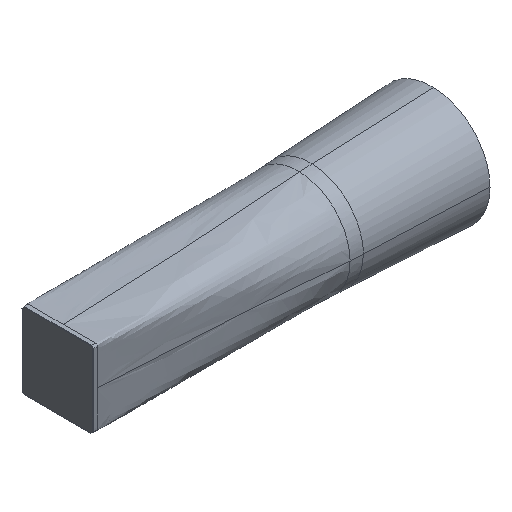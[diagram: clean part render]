
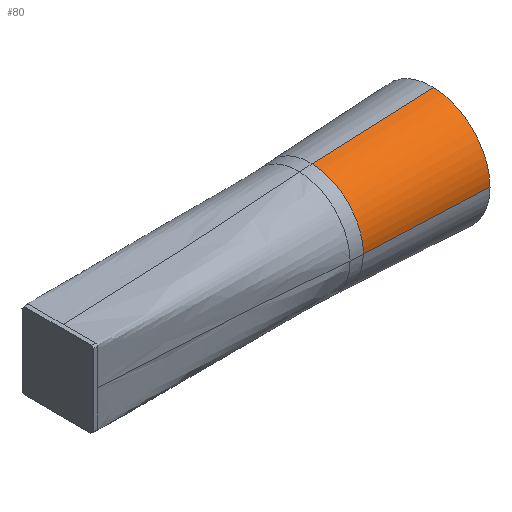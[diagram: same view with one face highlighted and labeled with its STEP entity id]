
A CAD part, isometric view. The second image highlights one B-rep face of the part: STEP entity #80.
In plain terms, the highlighted free-form (B-spline) face has degree [1, 3] with [3, 4] control points.
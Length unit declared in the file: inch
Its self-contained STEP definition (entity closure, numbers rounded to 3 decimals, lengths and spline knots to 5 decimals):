
#42=(
BOUNDED_SURFACE()
B_SPLINE_SURFACE(1,3,((#24424,#24425,#24426,#24427),(#24428,#24429,#24430,
#24431),(#24432,#24433,#24434,#24435)),.UNSPECIFIED.,.F.,.F.,.F.)
B_SPLINE_SURFACE_WITH_KNOTS((2,1,2),(4,4),(0.,1.,1.),(0.,
1.),.UNSPECIFIED.)
GEOMETRIC_REPRESENTATION_ITEM()
RATIONAL_B_SPLINE_SURFACE(((0.5,0.51,0.694,
1.052),(0.5,0.51,0.694,
1.052),(0.5,0.51,0.694,
1.052)))
REPRESENTATION_ITEM('')
SURFACE()
);
#46=(
BOUNDED_CURVE()
B_SPLINE_CURVE(3,(#24415,#24416,#24417,#24418),.UNSPECIFIED.,.F.,.F.)
B_SPLINE_CURVE_WITH_KNOTS((4,4),(0.,1.),.UNSPECIFIED.)
CURVE()
GEOMETRIC_REPRESENTATION_ITEM()
RATIONAL_B_SPLINE_CURVE((0.501,0.512,0.694,
1.046))
REPRESENTATION_ITEM('')
);
#80=ADVANCED_FACE('',(#134),#42,.F.);
#134=FACE_OUTER_BOUND('',#164,.T.);
#164=EDGE_LOOP('',(#282,#283,#284,#285));
#282=ORIENTED_EDGE('',*,*,#398,.T.);
#283=ORIENTED_EDGE('',*,*,#405,.F.);
#284=ORIENTED_EDGE('',*,*,#406,.F.);
#285=ORIENTED_EDGE('',*,*,#407,.F.);
#338=VERTEX_POINT('',#20810);
#339=VERTEX_POINT('',#20839);
#342=VERTEX_POINT('',#24414);
#343=VERTEX_POINT('',#24419);
#398=EDGE_CURVE('',#339,#338,#464,.T.);
#405=EDGE_CURVE('',#342,#338,#471,.T.);
#406=EDGE_CURVE('',#343,#342,#46,.T.);
#407=EDGE_CURVE('',#339,#343,#472,.T.);
#464=B_SPLINE_CURVE_WITH_KNOTS('',3,(#20811,#20812,#20813,#20814,#20815,
#20816,#20817,#20818,#20819,#20820,#20821,#20822,#20823,#20824,#20825,#20826,
#20827,#20828,#20829,#20830,#20831,#20832,#20833,#20834,#20835,#20836,#20837,
#20838),.UNSPECIFIED.,.F.,.F.,(4,2,2,2,2,2,2,2,2,2,2,2,2,4),(0.,0.0625,
0.125,0.1875,0.25,0.3125,0.375,0.4375,0.5,0.5625,0.625,0.75,0.875,1.),
 .UNSPECIFIED.);
#471=B_SPLINE_CURVE_WITH_KNOTS('',3,(#24410,#24411,#24412,#24413),
 .UNSPECIFIED.,.F.,.F.,(4,4),(0.,1.),.UNSPECIFIED.);
#472=B_SPLINE_CURVE_WITH_KNOTS('',3,(#24420,#24421,#24422,#24423),
 .UNSPECIFIED.,.F.,.F.,(4,4),(0.,1.),.UNSPECIFIED.);
#20810=CARTESIAN_POINT('',(836.87073,-81.51579,0.13032));
#20811=CARTESIAN_POINT('',(836.89743,-1.84505,82.02641));
#20812=CARTESIAN_POINT('',(836.89792,-5.60921,81.92468));
#20813=CARTESIAN_POINT('',(836.89842,-9.33631,81.563));
#20814=CARTESIAN_POINT('',(836.89935,-16.61708,80.36045));
#20815=CARTESIAN_POINT('',(836.89977,-20.17053,79.51984));
#20816=CARTESIAN_POINT('',(836.90045,-27.0229,77.42263));
#20817=CARTESIAN_POINT('',(836.90071,-30.32173,76.16633));
#20818=CARTESIAN_POINT('',(836.901,-36.60707,73.31467));
#20819=CARTESIAN_POINT('',(836.90103,-39.59362,71.71958));
#20820=CARTESIAN_POINT('',(836.90086,-45.22079,68.27233));
#20821=CARTESIAN_POINT('',(836.90066,-47.86152,66.42037));
#20822=CARTESIAN_POINT('',(836.90001,-52.78542,62.53905));
#20823=CARTESIAN_POINT('',(836.89956,-55.06873,60.50982));
#20824=CARTESIAN_POINT('',(836.89846,-59.28403,56.34598));
#20825=CARTESIAN_POINT('',(836.8978,-61.21619,54.21144));
#20826=CARTESIAN_POINT('',(836.8963,-64.74851,49.89832));
#20827=CARTESIAN_POINT('',(836.89546,-66.34883,47.71976));
#20828=CARTESIAN_POINT('',(836.89364,-69.24531,43.36811));
#20829=CARTESIAN_POINT('',(836.89266,-70.54158,41.19501));
#20830=CARTESIAN_POINT('',(836.89062,-72.86226,36.89222));
#20831=CARTESIAN_POINT('',(836.88955,-73.88675,34.76251));
#20832=CARTESIAN_POINT('',(836.88629,-76.60301,28.47982));
#20833=CARTESIAN_POINT('',(836.88403,-77.93881,24.43675));
#20834=CARTESIAN_POINT('',(836.87966,-79.91561,16.76272));
#20835=CARTESIAN_POINT('',(836.87756,-80.55719,13.13018));
#20836=CARTESIAN_POINT('',(836.87377,-81.3581,6.30576));
#20837=CARTESIAN_POINT('',(836.87209,-81.51736,3.11277));
#20838=CARTESIAN_POINT('',(836.87071,-81.51579,0.13033));
#20839=CARTESIAN_POINT('',(836.89745,-1.84507,82.02641));
#24410=CARTESIAN_POINT('',(1025.87694,-89.88411,0.04279));
#24411=CARTESIAN_POINT('',(959.72728,-86.95531,0.07342));
#24412=CARTESIAN_POINT('',(896.72521,-84.16587,0.1026));
#24413=CARTESIAN_POINT('',(836.87072,-81.51579,0.13032));
#24414=CARTESIAN_POINT('',(1025.87694,-89.88411,0.04279));
#24415=CARTESIAN_POINT('',(1025.79102,-1.81863,90.5733));
#24416=CARTESIAN_POINT('',(1025.86164,-61.25998,88.99108));
#24417=CARTESIAN_POINT('',(1025.8863,-89.92757,43.93087));
#24418=CARTESIAN_POINT('',(1025.87694,-89.88411,0.04279));
#24419=CARTESIAN_POINT('',(1025.79102,-1.81863,90.5733));
#24420=CARTESIAN_POINT('',(836.89745,-1.84511,82.02641));
#24421=CARTESIAN_POINT('',(899.86198,-1.83731,84.87535));
#24422=CARTESIAN_POINT('',(962.8265,-1.82849,87.72431));
#24423=CARTESIAN_POINT('',(1025.79102,-1.81863,90.5733));
#24424=CARTESIAN_POINT('',(835.65878,-0.82481,81.99159));
#24425=CARTESIAN_POINT('',(835.72383,-55.47056,81.19906));
#24426=CARTESIAN_POINT('',(835.7464,-81.73557,39.78488));
#24427=CARTESIAN_POINT('',(835.73756,-81.46376,-0.38103));
#24428=CARTESIAN_POINT('',(1025.78972,-0.72325,90.59582));
#24429=CARTESIAN_POINT('',(1025.86165,-61.14258,89.71956));
#24430=CARTESIAN_POINT('',(1025.8866,-90.18261,43.92978));
#24431=CARTESIAN_POINT('',(1025.87683,-89.88208,-0.47985));
#24432=CARTESIAN_POINT('',(1025.78982,-0.72325,90.59582));
#24433=CARTESIAN_POINT('',(1025.86174,-61.14258,89.71957));
#24434=CARTESIAN_POINT('',(1025.8867,-90.18262,43.92978));
#24435=CARTESIAN_POINT('',(1025.87692,-89.88209,-0.47985));
